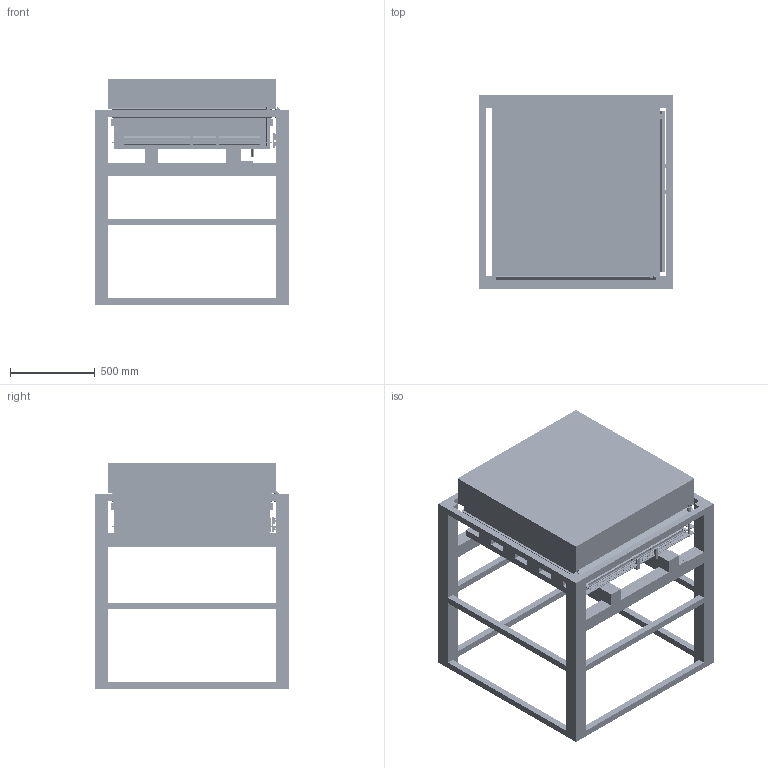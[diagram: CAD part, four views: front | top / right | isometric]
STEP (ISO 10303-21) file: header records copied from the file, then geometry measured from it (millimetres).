
FILE_DESCRIPTION(/* description */ (''),/* implementation_level */ '2;1');
FILE_NAME(/* name */ 'C:\HIM\Seafile\Cloud_chamber\Catia\STP\_Cloud_chamber_v05b.stp',/* time_stamp */ '2023-01-18T23:07:10+01:00',/* author */ ('Dell'),/* organization */ (''),/* preprocessor_version */ 'ST-DEVELOPER v19',/* originating_system */ 'Autodesk Inventor 2023',/* authorisation */ '');
FILE_SCHEMA (('AUTOMOTIVE_DESIGN { 1 0 10303 214 3 1 1 }'));
Length unit declared in the file: millimetre
Products named in the file (74): Cloud_chamber_v05; Plastic_bottom_plate_v02; Cooling_plate_Brass_v02; Cold_plate_Al_v02; Inner_glass_v02; Outer_glass_v02; Upper_channel_v02; Light_system_v06; LED-Streifen-ALU.brd2; LED-Streifen-ALU.brd_Kontur3; 61900219521; 6190xx1xx21_PIN; CL620; CL620_1; CL620_2; CL620_3; CL620_4; CL620_5; CL620_6; CL620_7; CL620_8; CL620_9; CL620_10; CL620_11; CL620_12; CL620_13; CL620_14; CL620_15; CL620_16; CL620_17; CL620_18; CL620_19; CL620_20; CL620_21; CL620_22; CL620_23; CL620_24; CL620_25; CL620_26; CL620_27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
Assembly tree (422 placements, depth 5):
  Cloud_chamber_v05
    Plastic_bottom_plate_v02
    Cooling_plate_Brass_v02
    Cold_plate_Al_v02
    Inner_glass_v02
    Outer_glass_v02
    Upper_channel_v02
    Light_system_v06  x2
      LED-Streifen-ALU.brd2
        LED-Streifen-ALU.brd_Kontur3
        61900219521
          6190xx1xx21_PIN  x2
        CL620
          CL620 Case
          CL620 Base
          CL620 Anode
          CL620 Kathode
          CL620 Substrat
          CL620 Lot Anode
          CL620 Lot Kathode
        CL620_1
          CL620 Case
          CL620 Base
          CL620 Anode
          CL620 Kathode
          CL620 Substrat
          CL620 Lot Anode
          CL620 Lot Kathode
        CL620_2
          CL620 Case
          CL620 Base
          CL620 Anode
          CL620 Kathode
          CL620 Substrat
          CL620 Lot Anode
          CL620 Lot Kathode
        CL620_3
          CL620 Case
          CL620 Base
          CL620 Anode
          CL620 Kathode
          CL620 Substrat
          CL620 Lot Anode
          CL620 Lot Kathode
        CL620_4
          CL620 Case
          CL620 Base
          CL620 Anode
          CL620 Kathode
          CL620 Substrat
          CL620 Lot Anode
          CL620 Lot Kathode
        CL620_5
          CL620 Case
          CL620 Base
          CL620 Anode
          CL620 Kathode
          CL620 Substrat
          CL620 Lot Anode
          CL620 Lot Kathode
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Bounding box: 1150 x 1150 x 1334 mm (x, y, z)
Volume: 221653114.2 mm3; surface area: 22929952.7 mm2
Topology: 6160 solids, 6160 shells, 46388 faces, 100223 edges, 66482 vertices
Faces by surface type: plane 43458, cylinder 2673, cone 179, bspline 70, torus 8
Full cylindrical faces by diameter (mm): 3.1 x320, 3.242 x1, 4 x2, 4.917 x123, 5.8 x320, 6 x6, 6.5 x40, 6.647 x8, 7 x1, 7.8 x1, 8 x4, 8.376 x36, 9 x10, 10 x13, 11 x24, 11.2 x40, 12 x9, 17 x1, 20 x20, 25 x5
Entity records: 46986 total; most frequent: CARTESIAN_POINT 8316, DIRECTION 8012, ORIENTED_EDGE 6326, EDGE_CURVE 3163, AXIS2_PLACEMENT_3D 2899, LINE 2214, VECTOR 2214, VERTEX_POINT 2141
